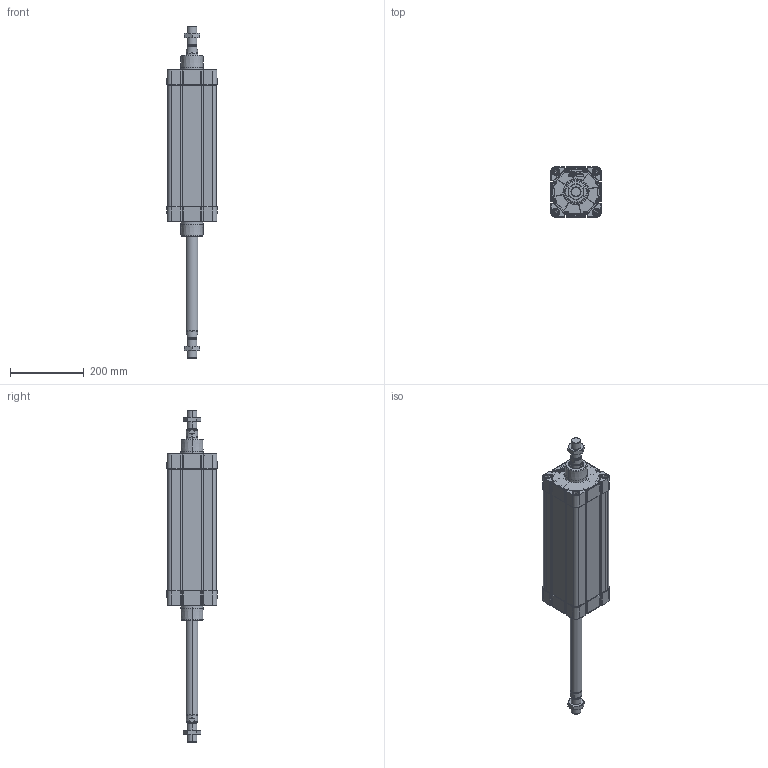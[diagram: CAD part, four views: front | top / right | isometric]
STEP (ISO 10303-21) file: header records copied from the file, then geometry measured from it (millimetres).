
FILE_DESCRIPTION (( 'STEP AP214' ), '1' );
FILE_NAME ('N11M41250250.STEP', '2021-09-28T14:26:29', ( '' ), ( '' ), 'SwSTEP 2.0', 'SolidWorks 2016', '' );
FILE_SCHEMA (( 'AUTOMOTIVE_DESIGN' ));
Length unit declared in the file: millimetre
Products named in the file (7): 000.516.7_000.516.0250; 21.G01.0000_21.G01.0250; 21.754.0; N11M41250250; Pistone Ø125 ISO 15552; 21.G03.0000_21.G03.0250; TA Ø125 ISO 15552 WEB
Assembly tree (8 placements, depth 2):
  N11M41250250
    TA Ø125 ISO 15552 WEB  x2
    000.516.7_000.516.0250
    21.754.0  x2
    21.G01.0000_21.G01.0250
    21.G03.0000_21.G03.0250
    Pistone Ø125 ISO 15552
Bounding box: 135.91 x 135.95 x 898 mm (x, y, z)
Volume: 3473773.2 mm3; surface area: 1026342.1 mm2
Topology: 20 solids, 24 shells, 2642 faces, 6784 edges, 4237 vertices
Faces by surface type: plane 1046, cylinder 722, bspline 400, cone 342, torus 102, sphere 30
Entity records: 65467 total; most frequent: CARTESIAN_POINT 17890, ORIENTED_EDGE 7490, DIRECTION 6921, EDGE_CURVE 3745, AXIS2_PLACEMENT_3D 2492, VERTEX_POINT 2369, VECTOR 1937, LINE 1937
